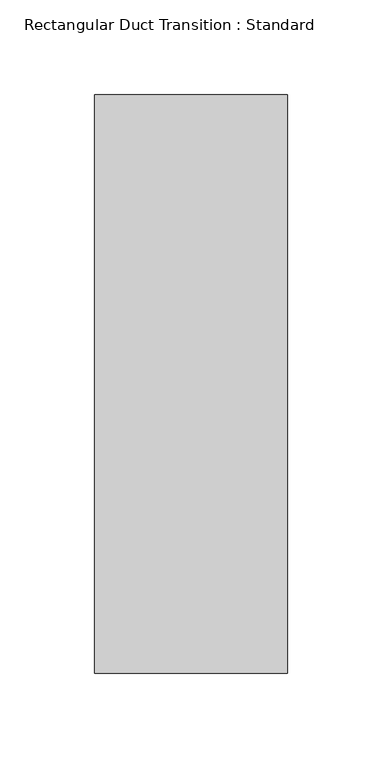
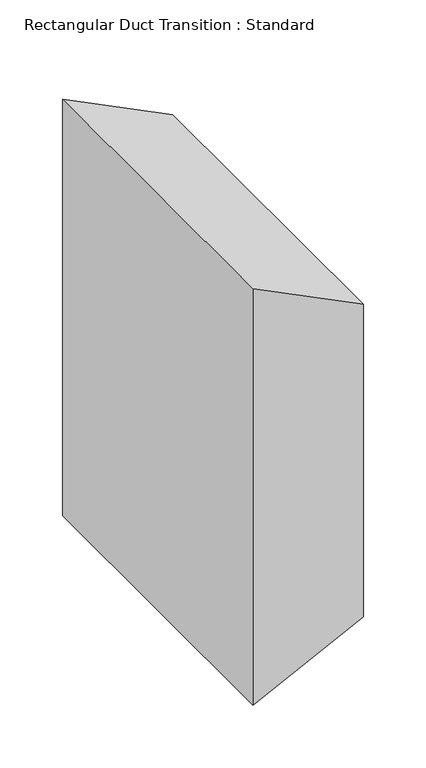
"""IFC4 building model written with IfcOpenShell, lengths in millimetres: duct fitting geometry, Rectangular Duct Transition : Standard."""

from ifc_helpers import new_model, si_unit, frame, origin, place, context, project, spatial, polyline, outline, extrude, source, transform, mapped, element, save


def rectangular_duct_transition_standard_b44764d7(model_context):
    return source(origin(), model_context, "Body", "SweptSolid", [
        extrude(outline(polyline([(203.2, 0.0), (-203.2, 0.0), (-152.4, 101.6), (152.4, 101.6), (203.2, 0.0)])), frame((0.0, -152.4, 0.0), z_axis=(0.0, 1.0, 0.0), x_axis=(0.0, 0.0, 1.0)), (0.0, 0.0, 1.0), 304.8),
        extrude(outline(polyline([(203.2, 0.0), (-203.2, 0.0), (-152.4, 101.6), (152.4, 101.6), (203.2, 0.0)])), frame((0.0, -152.4, 0.0), z_axis=(0.0, 1.0, 0.0), x_axis=(0.0, 0.0, 1.0)), (0.0, 0.0, 1.0), 304.8),
        extrude(outline(polyline([(203.2, 0.0), (-203.2, 0.0), (-152.4, 101.6), (152.4, 101.6), (203.2, 0.0)])), frame((0.0, -152.4, 0.0), z_axis=(0.0, 1.0, 0.0), x_axis=(0.0, 0.0, 1.0)), (0.0, 0.0, 1.0), 304.8),
    ])


if __name__ == "__main__":
    model = new_model("IFC4")
    model_context = context("Model", 3, world=origin())
    ifc_project = project(units=[si_unit("LENGTHUNIT", "METRE", prefix="MILLI")], contexts=[model_context])
    site = spatial("IfcSite", under=ifc_project)
    building = spatial("IfcBuilding", under=site)
    placement = place(None, origin())
    rectangular_duct_transition_standard_shape = rectangular_duct_transition_standard_b44764d7(model_context)
    element("IfcDuctFitting", 1, ObjectType="Rectangular Duct Transition : Standard", at=placement, inside=building, context=model_context, shape_type="MappedRepresentation", body=[
        mapped(rectangular_duct_transition_standard_shape, transform((0.0, 0.0, 0.0), x_axis=(1.0, 0.0, 0.0), y_axis=(0.0, 1.0, 0.0), z_axis=(0.0, 0.0, 1.0))),
    ])
    save(model, "model.ifc")
